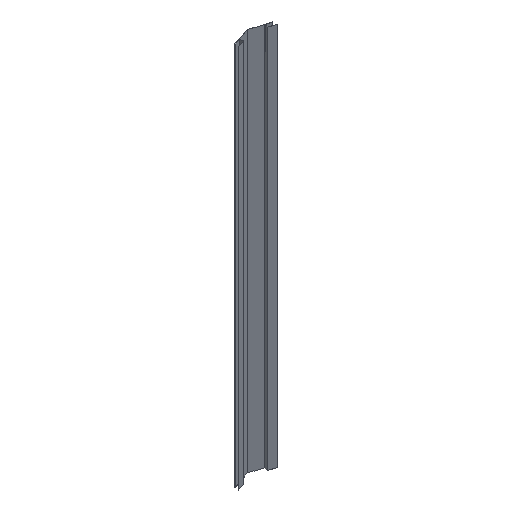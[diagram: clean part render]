
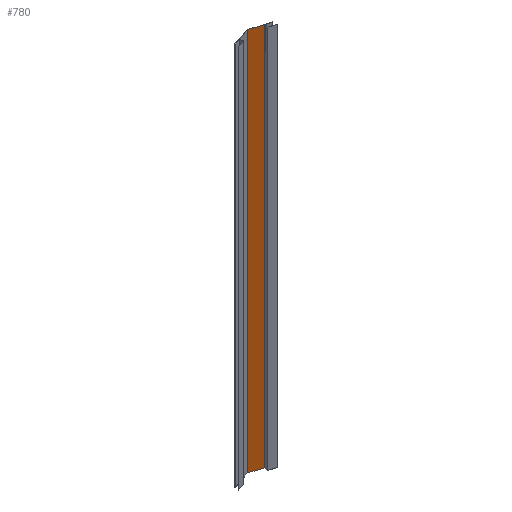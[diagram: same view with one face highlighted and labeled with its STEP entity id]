
A CAD part, isometric view. The second image highlights one B-rep face of the part: STEP entity #780.
In plain terms, the highlighted planar face has unit normal (-0.297, -0.955, 0).
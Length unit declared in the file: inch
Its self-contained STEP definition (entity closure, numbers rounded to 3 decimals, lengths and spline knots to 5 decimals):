
#13 = CARTESIAN_POINT ( 'NONE',  ( 5.93339, -1.86591, 120. ) ) ;
#22 = ORIENTED_EDGE ( 'NONE', *, *, #73, .F. ) ;
#73 = EDGE_CURVE ( 'NONE', #170, #954, #458, .T. ) ;
#92 = DIRECTION ( 'NONE',  ( 0.955, -0.297, 0. ) ) ;
#100 = PLANE ( 'NONE',  #629 ) ;
#163 = DIRECTION ( 'NONE',  ( 0., 0., -1. ) ) ;
#170 = VERTEX_POINT ( 'NONE', #351 ) ;
#183 = EDGE_LOOP ( 'NONE', ( #22, #1060, #440, #344 ) ) ;
#195 = VERTEX_POINT ( 'NONE', #357 ) ;
#289 = EDGE_CURVE ( 'NONE', #976, #195, #932, .T. ) ;
#325 = DIRECTION ( 'NONE',  ( 0., 0., -1. ) ) ;
#344 = ORIENTED_EDGE ( 'NONE', *, *, #665, .T. ) ;
#351 = CARTESIAN_POINT ( 'NONE',  ( 5.93339, -1.86591, 0. ) ) ;
#357 = CARTESIAN_POINT ( 'NONE',  ( 0.00341, -0.02201, 120. ) ) ;
#378 = LINE ( 'NONE', #13, #802 ) ;
#379 = VECTOR ( 'NONE', #325, 39.37008 ) ;
#440 = ORIENTED_EDGE ( 'NONE', *, *, #289, .T. ) ;
#443 = CARTESIAN_POINT ( 'NONE',  ( 0.00341, -0.02201, 0. ) ) ;
#458 = LINE ( 'NONE', #443, #647 ) ;
#506 = CARTESIAN_POINT ( 'NONE',  ( 5.93339, -1.86591, 120. ) ) ;
#530 = CARTESIAN_POINT ( 'NONE',  ( 0.00341, -0.02201, 120. ) ) ;
#568 = LINE ( 'NONE', #965, #379 ) ;
#606 = FACE_OUTER_BOUND ( 'NONE', #183, .T. ) ;
#629 = AXIS2_PLACEMENT_3D ( 'NONE', #530, #751, #92 ) ;
#647 = VECTOR ( 'NONE', #691, 39.37008 ) ;
#665 = EDGE_CURVE ( 'NONE', #195, #954, #568, .T. ) ;
#691 = DIRECTION ( 'NONE',  ( -0.955, 0.297, 0. ) ) ;
#692 = VECTOR ( 'NONE', #1002, 39.37008 ) ;
#751 = DIRECTION ( 'NONE',  ( -0.297, -0.955, 0. ) ) ;
#780 = ADVANCED_FACE ( 'NONE', ( #606 ), #100, .T. ) ;
#802 = VECTOR ( 'NONE', #163, 39.37008 ) ;
#828 = CARTESIAN_POINT ( 'NONE',  ( 0.00341, -0.02201, 0. ) ) ;
#915 = EDGE_CURVE ( 'NONE', #976, #170, #378, .T. ) ;
#932 = LINE ( 'NONE', #1042, #692 ) ;
#954 = VERTEX_POINT ( 'NONE', #828 ) ;
#965 = CARTESIAN_POINT ( 'NONE',  ( 0.00341, -0.02201, 120. ) ) ;
#976 = VERTEX_POINT ( 'NONE', #506 ) ;
#1002 = DIRECTION ( 'NONE',  ( -0.955, 0.297, 0. ) ) ;
#1042 = CARTESIAN_POINT ( 'NONE',  ( 0.00341, -0.02201, 120. ) ) ;
#1060 = ORIENTED_EDGE ( 'NONE', *, *, #915, .F. ) ;
